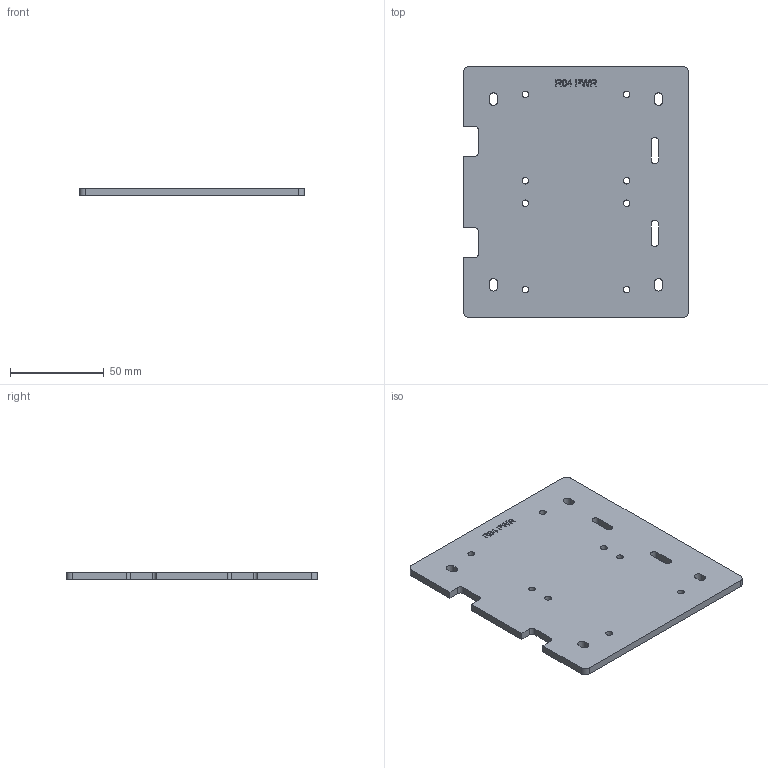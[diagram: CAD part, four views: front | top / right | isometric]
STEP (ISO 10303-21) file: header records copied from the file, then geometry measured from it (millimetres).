
FILE_DESCRIPTION(('Open CASCADE Model'),'2;1');
FILE_NAME('Open CASCADE Shape Model','2026-10-13T11:47:37',('Author'),( 'Open CASCADE'),'Open CASCADE STEP processor 7.8','Open CASCADE 7.8' ,'Unknown');
FILE_SCHEMA(('AUTOMOTIVE_DESIGN { 1 0 10303 214 1 1 1 1 }'));
Length unit declared in the file: millimetre
Products named in the file (1): Open CASCADE STEP translator 7.8 26
Bounding box: 120 x 133.8 x 4 mm (x, y, z)
Volume: 62028.2 mm3; surface area: 34113.8 mm2
Topology: 1 solids, 1 shells, 191 faces, 534 edges, 356 vertices
Faces by surface type: plane 94, extrusion 69, cylinder 28
Full cylindrical faces by diameter (mm): 3.5 x8
Entity records: 14584 total; most frequent: CARTESIAN_POINT 4478, DIRECTION 1586, VECTOR 1214, LINE 1145, ORIENTED_EDGE 1068, PCURVE 1068, DEFINITIONAL_REPRESENTATION 1068, EDGE_CURVE 534
